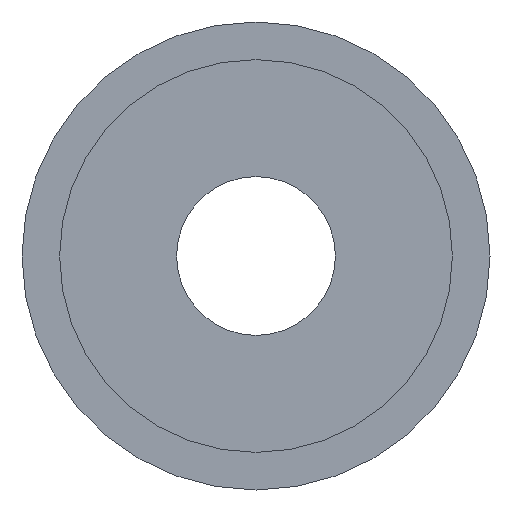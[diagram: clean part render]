
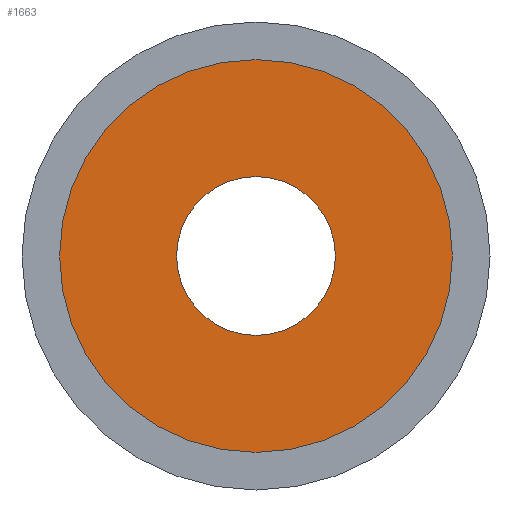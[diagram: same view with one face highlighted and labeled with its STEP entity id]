
A CAD part, front view. The second image highlights one B-rep face of the part: STEP entity #1663.
In plain terms, the highlighted planar face has unit normal (0, -1, 0).
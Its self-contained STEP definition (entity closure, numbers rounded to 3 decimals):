
#8 = ORIENTED_EDGE ( 'NONE', *, *, #676, .F. ) ;
#23 = CIRCLE ( 'NONE', #1253, 9.5 ) ;
#24 = AXIS2_PLACEMENT_3D ( 'NONE', #2332, #1703, #1902 ) ;
#273 = VERTEX_POINT ( 'NONE', #1215 ) ;
#336 = DIRECTION ( 'NONE',  ( 0., 0., -1. ) ) ;
#337 = EDGE_CURVE ( 'NONE', #696, #1941, #23, .T. ) ;
#357 = PLANE ( 'NONE',  #504 ) ;
#389 = CARTESIAN_POINT ( 'NONE',  ( 0., -14., -9.5 ) ) ;
#483 = DIRECTION ( 'NONE',  ( 0., 0., -1. ) ) ;
#504 = AXIS2_PLACEMENT_3D ( 'NONE', #716, #1860, #1083 ) ;
#671 = EDGE_LOOP ( 'NONE', ( #1145, #2397 ) ) ;
#676 = EDGE_CURVE ( 'NONE', #1941, #696, #1677, .T. ) ;
#683 = VERTEX_POINT ( 'NONE', #777 ) ;
#696 = VERTEX_POINT ( 'NONE', #389 ) ;
#716 = CARTESIAN_POINT ( 'NONE',  ( 0., -14., 9.5 ) ) ;
#725 = CIRCLE ( 'NONE', #1644, 23.5 ) ;
#777 = CARTESIAN_POINT ( 'NONE',  ( 0., -14., -23.5 ) ) ;
#1008 = FACE_BOUND ( 'NONE', #1851, .T. ) ;
#1083 = DIRECTION ( 'NONE',  ( 0., 0., 1. ) ) ;
#1145 = ORIENTED_EDGE ( 'NONE', *, *, #2134, .T. ) ;
#1215 = CARTESIAN_POINT ( 'NONE',  ( 0., -14., 23.5 ) ) ;
#1253 = AXIS2_PLACEMENT_3D ( 'NONE', #1419, #1786, #483 ) ;
#1277 = ORIENTED_EDGE ( 'NONE', *, *, #337, .F. ) ;
#1419 = CARTESIAN_POINT ( 'NONE',  ( 0., -14., 0. ) ) ;
#1434 = EDGE_CURVE ( 'NONE', #273, #683, #1890, .T. ) ;
#1558 = CARTESIAN_POINT ( 'NONE',  ( 0., -14., 9.5 ) ) ;
#1644 = AXIS2_PLACEMENT_3D ( 'NONE', #1674, #1868, #336 ) ;
#1663 = ADVANCED_FACE ( 'NONE', ( #1008, #2287 ), #357, .F. ) ;
#1674 = CARTESIAN_POINT ( 'NONE',  ( 0., -14., 0. ) ) ;
#1677 = CIRCLE ( 'NONE', #24, 9.5 ) ;
#1703 = DIRECTION ( 'NONE',  ( 0., -1., 0. ) ) ;
#1760 = DIRECTION ( 'NONE',  ( 0., -1., 0. ) ) ;
#1786 = DIRECTION ( 'NONE',  ( 0., -1., 0. ) ) ;
#1822 = AXIS2_PLACEMENT_3D ( 'NONE', #2344, #1760, #1964 ) ;
#1851 = EDGE_LOOP ( 'NONE', ( #1277, #8 ) ) ;
#1860 = DIRECTION ( 'NONE',  ( 0., 1., 0. ) ) ;
#1868 = DIRECTION ( 'NONE',  ( 0., -1., 0. ) ) ;
#1890 = CIRCLE ( 'NONE', #1822, 23.5 ) ;
#1902 = DIRECTION ( 'NONE',  ( 0., 0., -1. ) ) ;
#1941 = VERTEX_POINT ( 'NONE', #1558 ) ;
#1964 = DIRECTION ( 'NONE',  ( 0., 0., -1. ) ) ;
#2134 = EDGE_CURVE ( 'NONE', #683, #273, #725, .T. ) ;
#2287 = FACE_OUTER_BOUND ( 'NONE', #671, .T. ) ;
#2332 = CARTESIAN_POINT ( 'NONE',  ( 0., -14., 0. ) ) ;
#2344 = CARTESIAN_POINT ( 'NONE',  ( 0., -14., 0. ) ) ;
#2397 = ORIENTED_EDGE ( 'NONE', *, *, #1434, .T. ) ;
